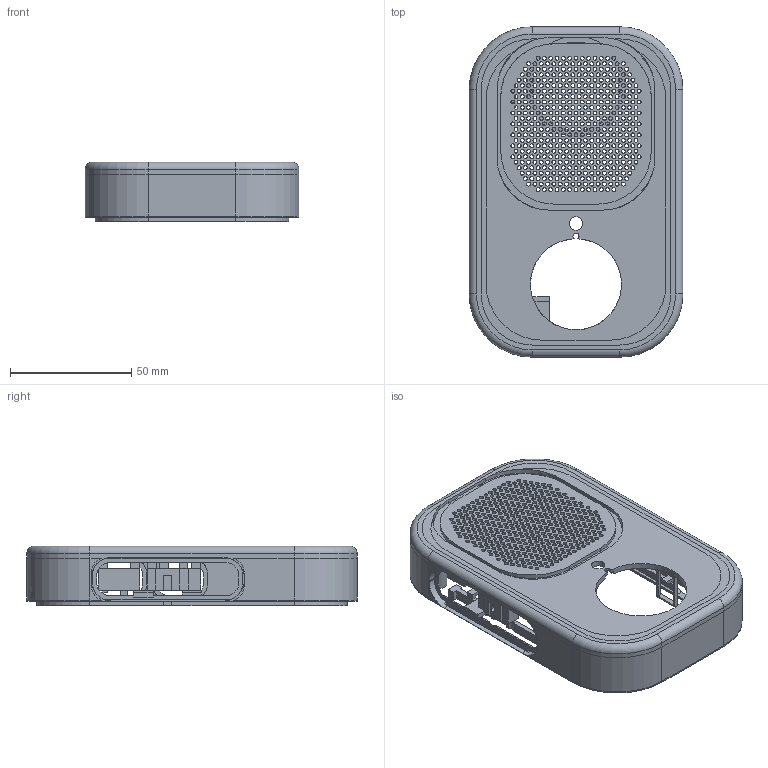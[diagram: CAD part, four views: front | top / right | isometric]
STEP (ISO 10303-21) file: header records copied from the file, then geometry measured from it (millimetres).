
FILE_DESCRIPTION(('Open CASCADE Model'),'2;1');
FILE_NAME('Open CASCADE Shape Model','2026-09-09T12:57:53',('Author'),( 'Open CASCADE'),'Open CASCADE STEP processor 7.9','Open CASCADE 7.9' ,'Unknown');
FILE_SCHEMA(('AUTOMOTIVE_DESIGN { 1 0 10303 214 1 1 1 1 }'));
Products named in the file (1): Open CASCADE STEP translator 7.9 1
Bounding box: 88 x 136 x 24.6 mm (x, y, z)
Volume: 51698.1 mm3; surface area: 51788.3 mm2
Topology: 1 solids, 3 shells, 1262 faces, 3745 edges, 2488 vertices
Faces by surface type: cylinder 677, plane 569, torus 16
Full cylindrical faces by diameter (mm): 1.6 x477, 1.7 x8, 5.2 x1, 5.5 x1, 36.4 x1
Entity records: 97100 total; most frequent: CARTESIAN_POINT 24204, DIRECTION 13145, ORIENTED_EDGE 7490, PCURVE 7490, DEFINITIONAL_REPRESENTATION 7490, LINE 7235, VECTOR 7235, EDGE_CURVE 3745
